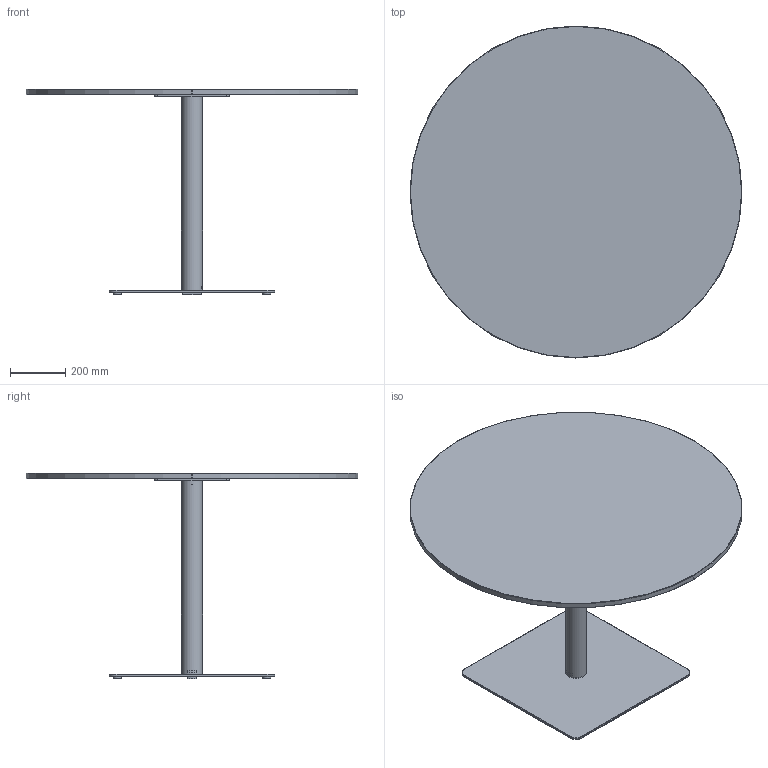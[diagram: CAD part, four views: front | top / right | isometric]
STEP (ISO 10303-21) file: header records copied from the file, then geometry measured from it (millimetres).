
FILE_DESCRIPTION( ('This file contains a STEP AP42 implementation' ,'as created by ZW3D STEP Interface translator.') ,'2;1' );
FILE_NAME( 'Henri - B_Carré - F1 - M1 - 1200 x 1200 x 750.stp' ,'24 912.161740', (''), ('ZWCAD Software Co.'), 'Version 1.0', 'ZW3D to STEP translator', '' );
FILE_SCHEMA(('AUTOMOTIVE_DESIGN { 1 0 10303 214 1 1 1 1 }'));
Length unit declared in the file: millimetre
Products named in the file (14): 0; PIED BISTROT PARAMETRIQUE_; COLONNE ACIER Ø76 V.02_; TUB-D076-02_; PLA-R76B-01_; CROIX ACIER 370 V.02_; CRX-X370-02_; SOCLE ACIER L 600x600 V.02_; SCL-R600-02_; PLA-R30A-01_; PLA-R30A-01; WUERTH 0276063020 Euro-screw 6.3x2 Verzinkt_; PLATEAU BISTROT PARAMETRIQUE_; insert_m6_13_
Assembly tree (22 placements, depth 3):
  0
  PIED BISTROT PARAMETRIQUE_
    COLONNE ACIER Ø76 V.02_
      TUB-D076-02_
      PLA-R76B-01_  x2
    CROIX ACIER 370 V.02_
      CRX-X370-02_
    SOCLE ACIER L 600x600 V.02_
      SCL-R600-02_
      PLA-R30A-01_
      PLA-R30A-01  x3
    WUERTH 0276063020 Euro-screw 6.3x2 Verzinkt_
    PLATEAU BISTROT PARAMETRIQUE_
      insert_m6_13_  x8
Bounding box: 1200 x 1200 x 744 mm (x, y, z)
Volume: 26432512.9 mm3; surface area: 3588163.4 mm2
Topology: 19 solids, 19 shells, 537 faces, 1310 edges, 822 vertices
Faces by surface type: plane 262, bspline 121, cylinder 98, cone 55, torus 1
Full cylindrical faces by diameter (mm): 4.88 x1, 6 x8, 6.3 x1, 8 x45, 12 x2, 14 x2, 30 x4, 72 x1, 76 x1
Entity records: 12310 total; most frequent: CARTESIAN_POINT 3396, ORIENTED_EDGE 1624, DIRECTION 1519, EDGE_CURVE 812, VERTEX_POINT 518, VECTOR 513, LINE 513, AXIS2_PLACEMENT_3D 503
